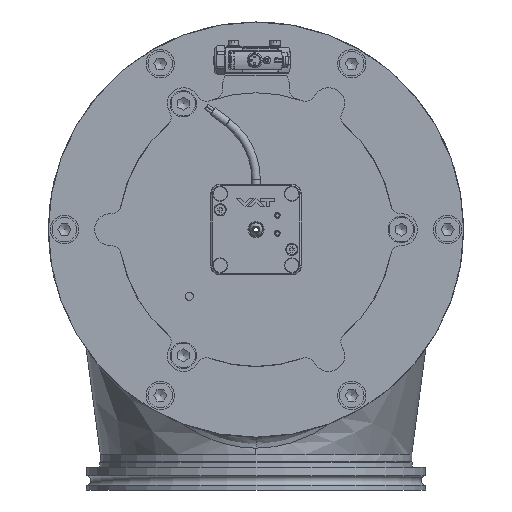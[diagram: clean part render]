
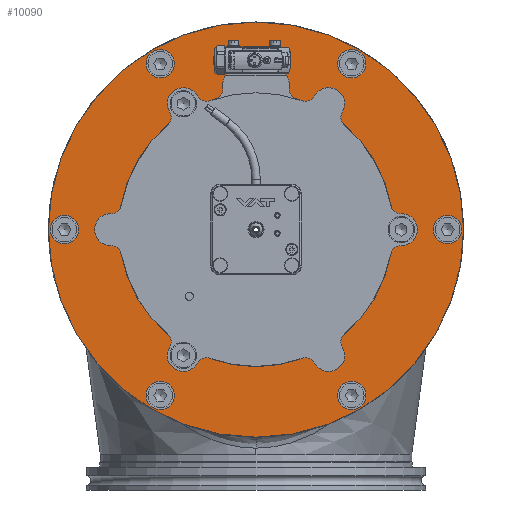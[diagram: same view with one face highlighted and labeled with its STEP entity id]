
A CAD part, left-side view. The second image highlights one B-rep face of the part: STEP entity #10090.
In plain terms, the highlighted planar face has unit normal (-1, 0, 0).
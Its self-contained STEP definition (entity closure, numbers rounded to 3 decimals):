
#10090=ADVANCED_FACE('BCT_REF_36137',(#13214,#13215,#13216,#13217,#13218,
#13219,#13220,#13221,#13222,#13223,#13224),#11149,.T.);
#11149=PLANE('',#31701);
#12128=CIRCLE('',#31690,3.4);
#12129=CIRCLE('',#31691,3.4);
#12130=CIRCLE('',#31692,3.4);
#12131=CIRCLE('',#31693,7.5);
#12132=CIRCLE('',#31694,7.5);
#12133=CIRCLE('',#31695,7.5);
#12134=CIRCLE('',#31696,7.5);
#12135=CIRCLE('',#31697,7.5);
#12136=CIRCLE('',#31698,7.5);
#12137=CIRCLE('',#31699,72.645);
#12138=CIRCLE('',#31700,110.);
#13214=FACE_BOUND('',#14443,.T.);
#13215=FACE_BOUND('',#14444,.T.);
#13216=FACE_BOUND('',#14445,.T.);
#13217=FACE_BOUND('',#14446,.T.);
#13218=FACE_BOUND('',#14447,.T.);
#13219=FACE_BOUND('',#14448,.T.);
#13220=FACE_BOUND('',#14449,.T.);
#13221=FACE_BOUND('',#14450,.T.);
#13222=FACE_BOUND('',#14451,.T.);
#13223=FACE_BOUND('',#14452,.T.);
#13224=FACE_BOUND('',#14453,.T.);
#14443=EDGE_LOOP('',(#18294));
#14444=EDGE_LOOP('',(#18295));
#14445=EDGE_LOOP('',(#18296));
#14446=EDGE_LOOP('',(#18297));
#14447=EDGE_LOOP('',(#18298));
#14448=EDGE_LOOP('',(#18299));
#14449=EDGE_LOOP('',(#18300));
#14450=EDGE_LOOP('',(#18301));
#14451=EDGE_LOOP('',(#18302));
#14452=EDGE_LOOP('',(#18303));
#14453=EDGE_LOOP('',(#18304));
#18294=ORIENTED_EDGE('',*,*,#25471,.T.);
#18295=ORIENTED_EDGE('',*,*,#25472,.T.);
#18296=ORIENTED_EDGE('',*,*,#25473,.T.);
#18297=ORIENTED_EDGE('',*,*,#25474,.T.);
#18298=ORIENTED_EDGE('',*,*,#25475,.T.);
#18299=ORIENTED_EDGE('',*,*,#25476,.T.);
#18300=ORIENTED_EDGE('',*,*,#25477,.T.);
#18301=ORIENTED_EDGE('',*,*,#25478,.T.);
#18302=ORIENTED_EDGE('',*,*,#25479,.T.);
#18303=ORIENTED_EDGE('',*,*,#25480,.T.);
#18304=ORIENTED_EDGE('',*,*,#25481,.T.);
#22851=VERTEX_POINT('',#46715);
#22852=VERTEX_POINT('',#46717);
#22853=VERTEX_POINT('',#46719);
#22854=VERTEX_POINT('',#46721);
#22855=VERTEX_POINT('',#46723);
#22856=VERTEX_POINT('',#46725);
#22857=VERTEX_POINT('',#46727);
#22858=VERTEX_POINT('',#46729);
#22859=VERTEX_POINT('',#46731);
#22860=VERTEX_POINT('',#46733);
#22861=VERTEX_POINT('',#46735);
#25471=EDGE_CURVE('BCT_REF_43192',#22851,#22851,#12128,.T.);
#25472=EDGE_CURVE('',#22852,#22852,#12129,.T.);
#25473=EDGE_CURVE('',#22853,#22853,#12130,.T.);
#25474=EDGE_CURVE('BCT_REF_95660',#22854,#22854,#12131,.T.);
#25475=EDGE_CURVE('',#22855,#22855,#12132,.T.);
#25476=EDGE_CURVE('BCT_REF_43177',#22856,#22856,#12133,.T.);
#25477=EDGE_CURVE('',#22857,#22857,#12134,.T.);
#25478=EDGE_CURVE('',#22858,#22858,#12135,.T.);
#25479=EDGE_CURVE('BCT_REF_95633',#22859,#22859,#12136,.T.);
#25480=EDGE_CURVE('',#22860,#22860,#12137,.T.);
#25481=EDGE_CURVE('',#22861,#22861,#12138,.T.);
#31690=AXIS2_PLACEMENT_3D('',#46714,#36143,#36144);
#31691=AXIS2_PLACEMENT_3D('',#46716,#36145,#36146);
#31692=AXIS2_PLACEMENT_3D('',#46718,#36147,#36148);
#31693=AXIS2_PLACEMENT_3D('',#46720,#36149,#36150);
#31694=AXIS2_PLACEMENT_3D('',#46722,#36151,#36152);
#31695=AXIS2_PLACEMENT_3D('',#46724,#36153,#36154);
#31696=AXIS2_PLACEMENT_3D('',#46726,#36155,#36156);
#31697=AXIS2_PLACEMENT_3D('',#46728,#36157,#36158);
#31698=AXIS2_PLACEMENT_3D('',#46730,#36159,#36160);
#31699=AXIS2_PLACEMENT_3D('',#46732,#36161,#36162);
#31700=AXIS2_PLACEMENT_3D('',#46734,#36163,#36164);
#31701=AXIS2_PLACEMENT_3D('',#46736,#36165,#36166);
#36143=DIRECTION('',(1.,0.,0.));
#36144=DIRECTION('',(0.,-0.866,0.5));
#36145=DIRECTION('',(1.,0.,0.));
#36146=DIRECTION('',(0.,0.866,0.5));
#36147=DIRECTION('',(1.,0.,0.));
#36148=DIRECTION('',(0.,0.,-1.));
#36149=DIRECTION('',(1.,0.,0.));
#36150=DIRECTION('',(0.,-0.866,-0.5));
#36151=DIRECTION('',(1.,0.,0.));
#36152=DIRECTION('',(0.,-0.866,0.5));
#36153=DIRECTION('',(1.,0.,0.));
#36154=DIRECTION('',(0.,0.,1.));
#36155=DIRECTION('',(1.,0.,0.));
#36156=DIRECTION('',(0.,0.866,0.5));
#36157=DIRECTION('',(1.,0.,0.));
#36158=DIRECTION('',(0.,0.866,-0.5));
#36159=DIRECTION('',(1.,0.,0.));
#36160=DIRECTION('',(0.,0.,-1.));
#36161=DIRECTION('',(1.,0.,0.));
#36162=DIRECTION('',(0.,0.,1.));
#36163=DIRECTION('',(-1.,0.,0.));
#36164=DIRECTION('',(0.,0.,1.));
#36165=DIRECTION('',(-1.,0.,0.));
#36166=DIRECTION('',(0.,0.,1.));
#46714=CARTESIAN_POINT('',(0.,-66.684,-38.5));
#46715=CARTESIAN_POINT('',(0.,-69.628,-36.8));
#46716=CARTESIAN_POINT('',(0.,0.,77.));
#46717=CARTESIAN_POINT('',(0.,2.944,78.7));
#46718=CARTESIAN_POINT('',(0.,66.684,-38.5));
#46719=CARTESIAN_POINT('',(0.,66.684,-41.9));
#46720=CARTESIAN_POINT('',(0.,87.902,-50.75));
#46721=CARTESIAN_POINT('',(0.,81.406,-54.5));
#46722=CARTESIAN_POINT('',(0.,0.,-101.5));
#46723=CARTESIAN_POINT('',(0.,-6.495,-97.75));
#46724=CARTESIAN_POINT('',(0.,-87.902,-50.75));
#46725=CARTESIAN_POINT('',(0.,-87.902,-43.25));
#46726=CARTESIAN_POINT('',(0.,-87.902,50.75));
#46727=CARTESIAN_POINT('',(0.,-81.406,54.5));
#46728=CARTESIAN_POINT('',(0.,0.,101.5));
#46729=CARTESIAN_POINT('',(0.,6.495,97.75));
#46730=CARTESIAN_POINT('',(0.,87.902,50.75));
#46731=CARTESIAN_POINT('',(0.,87.902,43.25));
#46732=CARTESIAN_POINT('',(0.,0.,0.));
#46733=CARTESIAN_POINT('',(0.,0.,72.645));
#46734=CARTESIAN_POINT('',(0.,0.,0.));
#46735=CARTESIAN_POINT('',(0.,0.,110.));
#46736=CARTESIAN_POINT('',(0.,72.145,0.));
